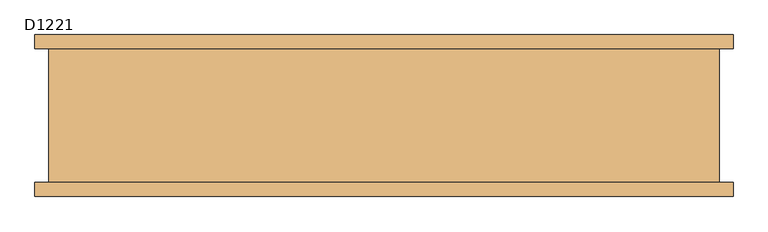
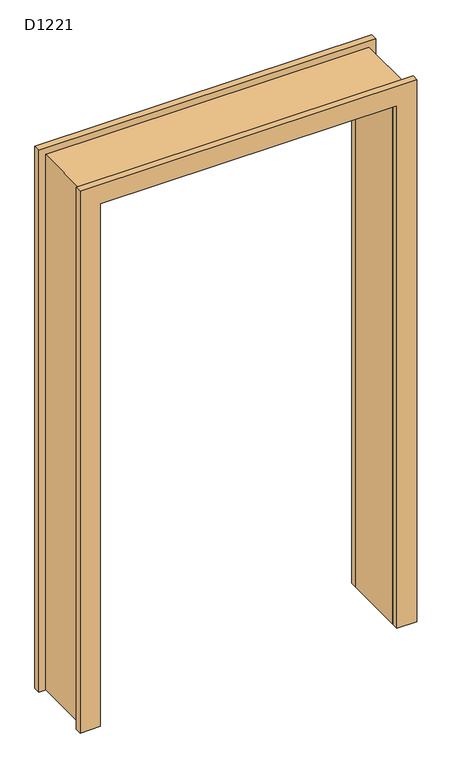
"""IFC4 building model written with IfcOpenShell, lengths in millimetres: door geometry, 门洞 : D1221."""

from ifc_helpers import new_model, si_unit, frame, origin, place, context, project, spatial, polyline, outline, extrude, source, transform, mapped, element, save


def d1221_ba4ee0d3(model_context):
    return source(origin(), model_context, "Body", "SweptSolid", [
        extrude(outline(polyline([(2100.0, -600.0), (0.0, -600.0), (0.0, -550.0), (2050.0, -550.0), (2050.0, 550.0), (0.0, 550.0), (0.0, 600.0), (2100.0, 600.0), (2100.0, -600.0)])), frame((0.0, -120.0, 0.0), z_axis=(0.0, 1.0, 0.0), x_axis=(0.0, 0.0, 1.0)), (0.0, 0.0, 1.0), 240.0),
        extrude(outline(polyline([(2125.0, -625.0), (0.0, -625.0), (0.0, -550.0), (2050.0, -550.0), (2050.0, 550.0), (0.0, 550.0), (0.0, 625.0), (2125.0, 625.0), (2125.0, -625.0)])), frame((0.0, 120.0, 0.0), z_axis=(0.0, 1.0, 0.0), x_axis=(0.0, 0.0, 1.0)), (0.0, 0.0, 1.0), 25.0),
        extrude(outline(polyline([(2125.0, -625.0), (0.0, -625.0), (0.0, -550.0), (2050.0, -550.0), (2050.0, 550.0), (0.0, 550.0), (0.0, 625.0), (2125.0, 625.0), (2125.0, -625.0)])), frame((0.0, -145.0, 0.0), z_axis=(0.0, 1.0, 0.0), x_axis=(0.0, 0.0, 1.0)), (0.0, 0.0, 1.0), 25.0),
    ])


if __name__ == "__main__":
    model = new_model("IFC4")
    model_context = context("Model", 3, world=origin())
    ifc_project = project(units=[si_unit("LENGTHUNIT", "METRE", prefix="MILLI")], contexts=[model_context])
    site = spatial("IfcSite", under=ifc_project)
    building = spatial("IfcBuilding", under=site)
    placement = place(None, origin())
    d1221_shape = d1221_ba4ee0d3(model_context)
    element("IfcDoor", 1, ObjectType="门洞 : D1221", at=placement, inside=building, context=model_context, shape_type="MappedRepresentation", body=[
        mapped(d1221_shape, transform((0.0, 0.0, 0.0), x_axis=(1.0, 0.0, 0.0), y_axis=(0.0, 1.0, 0.0), z_axis=(0.0, 0.0, 1.0))),
    ])
    save(model, "model.ifc")
